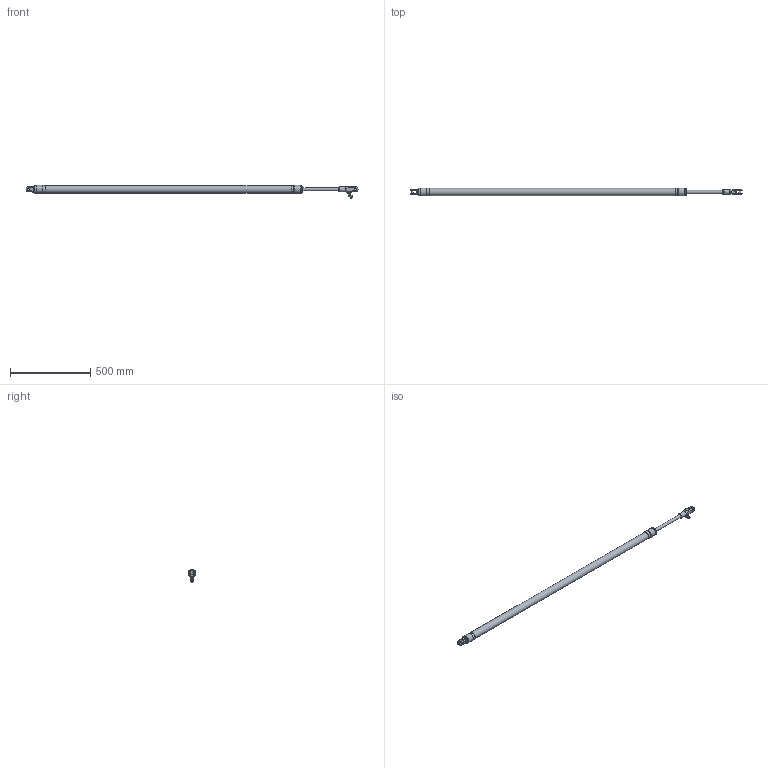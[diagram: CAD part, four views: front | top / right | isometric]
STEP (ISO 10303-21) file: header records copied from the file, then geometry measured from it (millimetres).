
FILE_DESCRIPTION(/* description */ (''),/* implementation_level */ '2;1');
FILE_NAME(/* name */ 'Q:\AA BRAND HYDRAULICS\HYDRAULICS FAMILY DIRECTORY\HYDRAULICS\CYLINDERS\VANGS\ALUMINIUM SINGLE ACTING - STAINLESS ON REQUEST (-0010 To -0150)\VSA-0010-S230-NP-71-L1800\VSA-0010-S230-NP-71-L1800 (Open).stp',/* time_stamp */ '2018-04-09T10:32:41+01:00',/* author */ ('Lorena'),/* organization */ (''),/* preprocessor_version */ 'ST-DEVELOPER v17',/* originating_system */ 'Autodesk Inventor 2018',/* authorisation */ '');
FILE_SCHEMA (('AUTOMOTIVE_DESIGN { 1 0 10303 214 3 1 1 }'));
Products named in the file (1): VSA-0010-S230-NP-71-L1800 (Open)
Bounding box: 2065.52 x 48.8 x 81.7 mm (x, y, z)
Volume: 2959966.6 mm3; surface area: 284616 mm2
Topology: 2 solids, 3 shells, 1727 faces, 4681 edges, 3103 vertices
Faces by surface type: plane 974, bspline 573, cone 98, cylinder 74, torus 4, sphere 4
Full cylindrical faces by diameter (mm): 2.5 x1, 3.5 x1, 4.2 x1, 4.4 x1, 5 x3, 7.728 x1, 8.728 x1, 8.8 x3, 9.728 x2, 10 x2, 11.11 x1, 11.8 x2, 12 x1, 12.5 x1, 12.7 x2, 13 x1, 15.1 x3, 15.875 x2, 17 x1, 20 x1, 30 x1, 45.8 x1, 46.8 x1, 48.8 x3
Entity records: 62144 total; most frequent: CARTESIAN_POINT 20829, ORIENTED_EDGE 9350, DIRECTION 6096, EDGE_CURVE 4675, VERTEX_POINT 3106, LINE 2928, VECTOR 2928, EDGE_LOOP 1887
